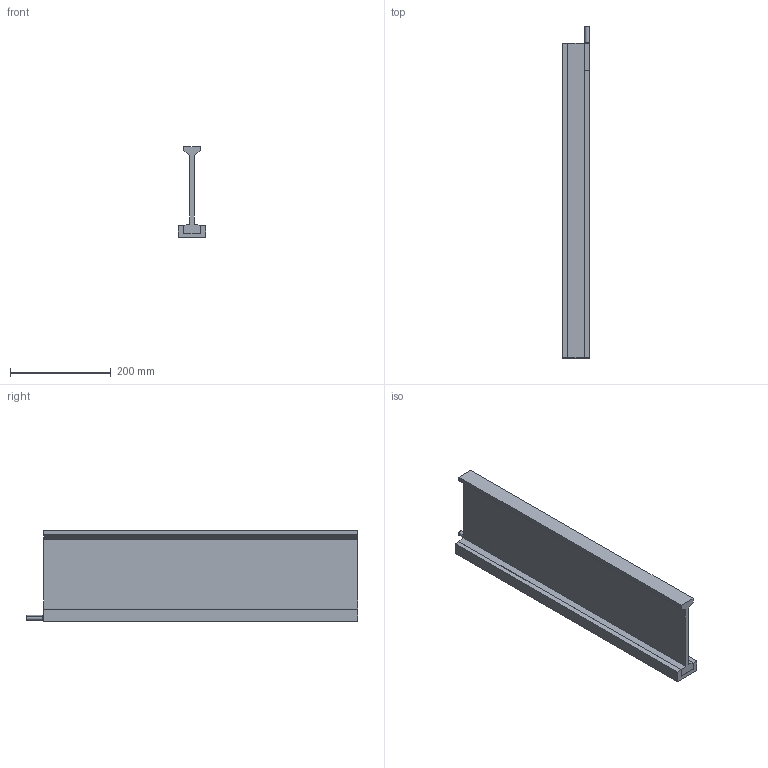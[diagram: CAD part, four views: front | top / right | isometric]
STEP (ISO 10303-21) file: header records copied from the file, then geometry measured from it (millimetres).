
FILE_DESCRIPTION (( 'STEP AP214' ), '1' );
FILE_NAME ('DX140F-C10-NH.STEP', '2021-07-16T04:15:12', ( '' ), ( '' ), 'SwSTEP 2.0', 'SolidWorks 2020', '' );
FILE_SCHEMA (( 'AUTOMOTIVE_DESIGN' ));
Length unit declared in the file: millimetre
Products named in the file (6): HEX SHCS M3x0.5x12(S.S)_B18.3.1M - 3 x 0.5 x 12 Hex SHCS -- 12CHX; DX140FNH01; TIM-PC 8850FT-LV (DX140F)_C10; DX140FCX01_C10 (CUSTOMER); CBL_PWR_D10; DX140F-C10-NH
Assembly tree (6 placements, depth 2):
  DX140F-C10-NH
    TIM-PC 8850FT-LV (DX140F)_C10
    DX140FCX01_C10 (CUSTOMER)
    DX140FNH01
    HEX SHCS M3x0.5x12(S.S)_B18.3.1M - 3 x 0.5 x 12 Hex SHCS -- 12CHX  x2
    CBL_PWR_D10
Bounding box: 55 x 660 x 180.6 mm (x, y, z)
Volume: 1940328.3 mm3; surface area: 411354.6 mm2
Topology: 6 solids, 6 shells, 242 faces, 577 edges, 320 vertices
Faces by surface type: cylinder 86, plane 76, cone 74, torus 6
Entity records: 6147 total; most frequent: DIRECTION 1083, CARTESIAN_POINT 966, ORIENTED_EDGE 910, EDGE_CURVE 455, AXIS2_PLACEMENT_3D 404, VERTEX_POINT 287, LINE 275, VECTOR 275
